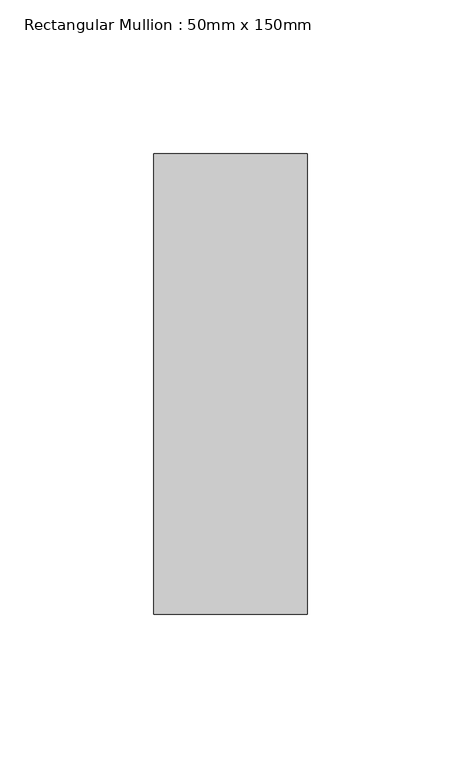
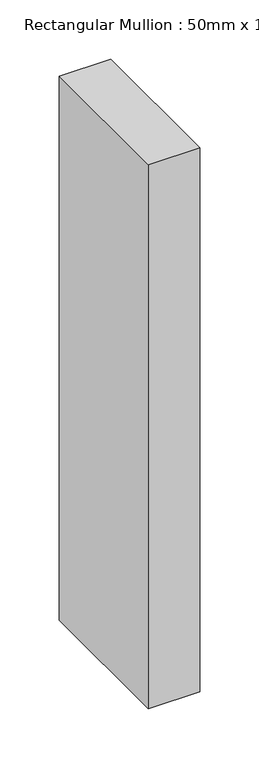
"""IFC4 building model written with IfcOpenShell, lengths in millimetres: member geometry, Rectangular Mullion : 50mm x 150mm."""

from ifc_helpers import new_model, si_unit, frame, origin, place, context, project, spatial, polyline, outline, extrude, source, transform, mapped, element, save


def rectangular_mullion_50mm_x_150mm_8d9d5cce(model_context):
    return source(origin(), model_context, "Body", "SweptSolid", [
        extrude(outline(polyline([(0.0, 75.0), (0.0, -75.0), (-50.0, -75.0), (-50.0, 75.0), (0.0, 75.0)])), frame((0.0, 0.0, -560.0), z_axis=(0.0, 0.0, 1.0), x_axis=(1.0, 0.0, 0.0)), (0.0, 0.0, 1.0), 560.0),
    ])


if __name__ == "__main__":
    model = new_model("IFC4")
    model_context = context("Model", 3, world=origin())
    ifc_project = project(units=[si_unit("LENGTHUNIT", "METRE", prefix="MILLI")], contexts=[model_context])
    site = spatial("IfcSite", under=ifc_project)
    building = spatial("IfcBuilding", under=site)
    placement = place(None, origin())
    rectangular_mullion_50mm_x_150mm_shape = rectangular_mullion_50mm_x_150mm_8d9d5cce(model_context)
    element("IfcMember", 1, ObjectType="Rectangular Mullion : 50mm x 150mm", at=placement, inside=building, context=model_context, shape_type="MappedRepresentation", body=[
        mapped(rectangular_mullion_50mm_x_150mm_shape, transform((0.0, 0.0, 0.0), x_axis=(1.0, 0.0, 0.0), y_axis=(0.0, 1.0, 0.0), z_axis=(0.0, 0.0, 1.0))),
    ])
    save(model, "model.ifc")
